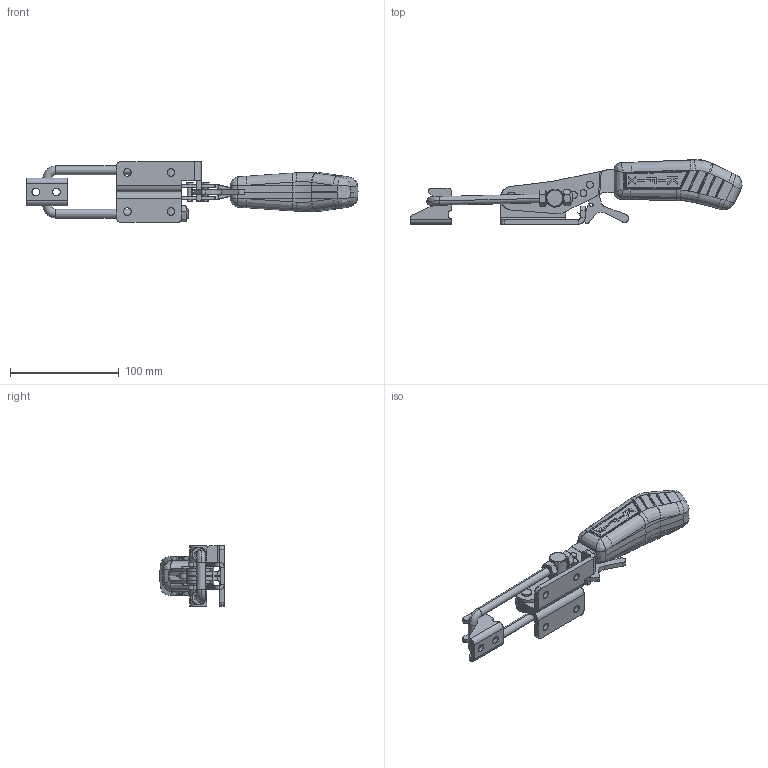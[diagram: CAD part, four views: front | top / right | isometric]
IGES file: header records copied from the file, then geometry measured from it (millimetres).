
Start section: SolidWorks IGES file using analytic representation for surfaces
Global section: file name: C:\Projetos\Grampos\KF-943\KF-943 DTR\KF-943 DTR.IGS; native system: SolidWorks 2013; preprocessor: SolidWorks 2013; author: Ricardo; date: 140821.112954; units: millimetre
Bounding box: 305.76 x 59.44 x 56.5 mm (x, y, z)
Surface area: 77053 mm2 (no closed solid volume)
Topology: 0 solids, 0 shells, 760 faces, 9170 edges, 9143 vertices
Faces by surface type: bspline 426, revolution 334
